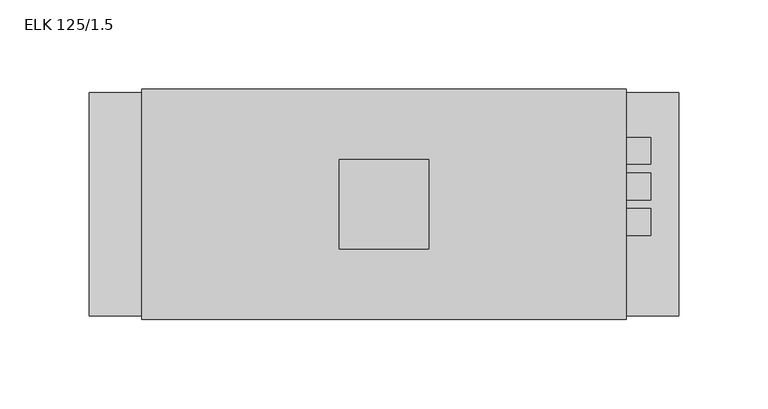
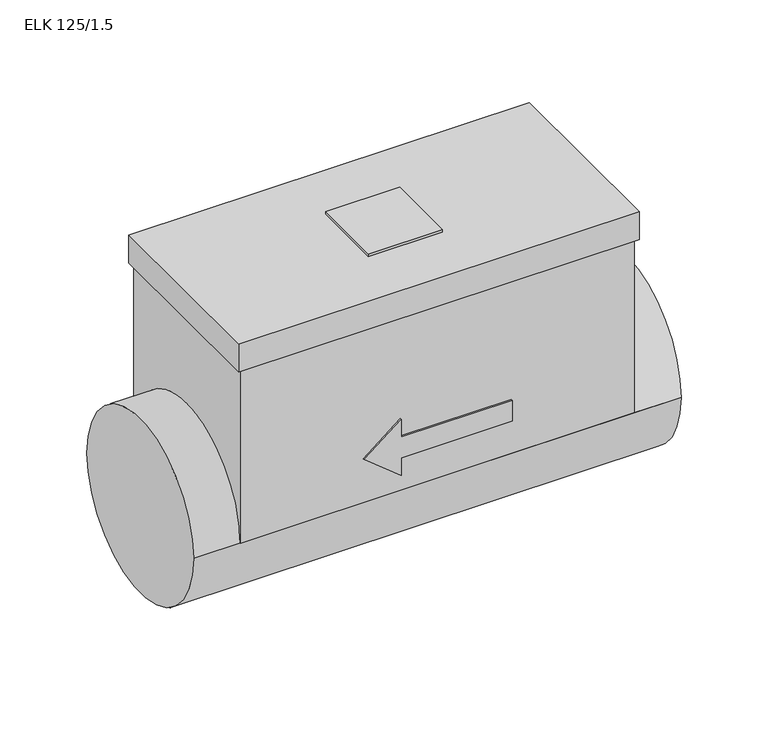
"""IFC4 building model written with IfcOpenShell, lengths in millimetres: proxy geometry, KORF_Нагреватель_Электрический_Круглый_ELK : ELK 125/1.5."""

import ifcopenshell
import ifcopenshell.guid

model = None  # the IFC model being written
_history = None  # IfcOwnerHistory: only IFC2X3 demands one
_inside = {}  # id of a spatial element -> (the spatial element, [elements in it])
_under = {}  # id of a project, library or spatial element -> (it, [spatial elements below it])
_declared = {}  # id of a project -> (the project, [libraries it declares])
_typed = {}  # id of a type object -> (the type object, [elements of that type])
_made_of = {}  # id of a material, layer set ... -> (it, [elements and type objects made of it])


def new_model(schema):
    """Start an empty IFC model of exactly this schema.

    Asked for "IFC4X3", IfcOpenShell would pick the latest addendum, in which some entities
    have other attributes; the version numbers below select the first issue.
    IFC2X3 requires an IfcOwnerHistory on every rooted entity: one is made here for all.
    """
    global model, _history
    if schema == "IFC4X3":
        model = ifcopenshell.file(schema_version=(4, 3, 0, 0))
    else:
        model = ifcopenshell.file(schema=schema)
    _inside.clear()
    _under.clear()
    _declared.clear()
    _typed.clear()
    _made_of.clear()
    _history = None
    if model.schema == "IFC2X3":
        org = make("IfcOrganization", Name="unknown")
        user = make(
            "IfcPersonAndOrganization",
            ThePerson=make("IfcPerson", FamilyName="unknown"),
            TheOrganization=org,
        )
        app = make(
            "IfcApplication",
            ApplicationDeveloper=org,
            Version="unknown",
            ApplicationFullName="unknown",
            ApplicationIdentifier="unknown",
        )
        _history = make(
            "IfcOwnerHistory",
            OwningUser=user,
            OwningApplication=app,
            ChangeAction="ADDED",
            CreationDate=0,
        )
    return model


def make(cls, **values):
    """One entity of the class cls with the attributes given. An attribute that is None is left unset."""
    return model.create_entity(
        cls, **{name: value for name, value in values.items() if value is not None}
    )


def rooted(cls, **values):
    """An entity with a GlobalId (a new one), such as an element, a storey or a relation."""
    return make(cls, GlobalId=ifcopenshell.guid.new(), OwnerHistory=_history, **values)


def si_unit(unit_type, name, prefix=None):
    """IfcSIUnit, for example si_unit("LENGTHUNIT", "METRE", prefix="MILLI")."""
    return make("IfcSIUnit", UnitType=unit_type, Prefix=prefix, Name=name)


def assignment(units):
    """IfcUnitAssignment: the units of a project."""
    return None if units is None else make("IfcUnitAssignment", Units=units)


def point(xyz):
    """IfcCartesianPoint."""
    return None if xyz is None else make("IfcCartesianPoint", Coordinates=xyz)


def direction(xyz):
    """IfcDirection."""
    return None if xyz is None else make("IfcDirection", DirectionRatios=xyz)


def frame(location, z_axis=None, x_axis=None):
    """IfcAxis2Placement3D, a coordinate frame: its origin and axes. An axis left out is left unset."""
    return make(
        "IfcAxis2Placement3D",
        Location=point(location),
        Axis=direction(z_axis),
        RefDirection=direction(x_axis),
    )


def frame_2d(location, x_axis=None):
    """IfcAxis2Placement2D, a coordinate frame in the plane: its origin and x axis."""
    return make(
        "IfcAxis2Placement2D", Location=point(location), RefDirection=direction(x_axis)
    )


def origin():
    """The frame at (0, 0, 0) with its axes left unset."""
    return frame((0.0, 0.0, 0.0))


def place(relative_to, where):
    """IfcLocalPlacement: puts the frame where relative to a parent placement (None: the world)."""
    return make(
        "IfcLocalPlacement", PlacementRelTo=relative_to, RelativePlacement=where
    )


def context(
    kind, dimensions, precision=None, world=None, true_north=None, identifier=None
):
    """IfcGeometricRepresentationContext, for example the 3D "Model" context."""
    return make(
        "IfcGeometricRepresentationContext",
        ContextIdentifier=identifier,
        ContextType=kind,
        CoordinateSpaceDimension=dimensions,
        Precision=precision,
        WorldCoordinateSystem=world,
        TrueNorth=true_north,
    )


def project(units=None, contexts=None):
    """IfcProject with its units and contexts."""
    return rooted(
        "IfcProject",
        Name="project",
        RepresentationContexts=contexts,
        UnitsInContext=assignment(units),
    )


def spatial(cls, under=None, at=None, **own):
    """A site, building, storey or space (cls), placed at a placement, below another one or the project."""
    s = rooted(cls, ObjectPlacement=at, **own)
    if under is not None:
        _under.setdefault(under.id(), (under, []))[1].append(s)
    return s


def polyline(points):
    """IfcPolyline through the points."""
    return make("IfcPolyline", Points=[point(p) for p in points])


def circle_curve(where, radius):
    """IfcCircle in the frame where."""
    return make("IfcCircle", Position=where, Radius=radius)


def trimmed(basis, trim1, trim2, sense, master):
    """IfcTrimmedCurve: the piece of a basis curve between two trims."""
    return make(
        "IfcTrimmedCurve",
        BasisCurve=basis,
        Trim1=trim1,
        Trim2=trim2,
        SenseAgreement=sense,
        MasterRepresentation=master,
    )


def segment(curve, same_sense, transition):
    """IfcCompositeCurveSegment."""
    return make(
        "IfcCompositeCurveSegment",
        Transition=transition,
        SameSense=same_sense,
        ParentCurve=curve,
    )


def composite_curve(segments, self_intersect=None):
    """IfcCompositeCurve: segments joined end to end."""
    return make("IfcCompositeCurve", Segments=segments, SelfIntersect=self_intersect)


def outline(outer, holes=None, kind="AREA"):
    """IfcArbitraryClosedProfileDef: a profile drawn as a closed curve; with holes, ...WithVoids."""
    if holes is None:
        return make("IfcArbitraryClosedProfileDef", ProfileType=kind, OuterCurve=outer)
    return make(
        "IfcArbitraryProfileDefWithVoids",
        ProfileType=kind,
        OuterCurve=outer,
        InnerCurves=holes,
    )


def extrude(swept, where, along, depth):
    """IfcExtrudedAreaSolid: the profile swept, set in the frame where, extruded along a direction by depth."""
    return make(
        "IfcExtrudedAreaSolid",
        SweptArea=swept,
        Position=where,
        ExtrudedDirection=direction(along),
        Depth=depth,
    )


def shape(context_of_items, identifier, shape_type, items):
    """IfcShapeRepresentation: the items that make up one representation, for example the "Body"."""
    return make(
        "IfcShapeRepresentation",
        ContextOfItems=context_of_items,
        RepresentationIdentifier=identifier,
        RepresentationType=shape_type,
        Items=items,
    )


def source(mapping_origin, context_of_items, identifier, shape_type, items):
    """IfcRepresentationMap: a shape defined once, which mapped items show again and again."""
    return make(
        "IfcRepresentationMap",
        MappingOrigin=mapping_origin,
        MappedRepresentation=shape(context_of_items, identifier, shape_type, items),
    )


def transform(
    local_origin,
    x_axis=None,
    y_axis=None,
    z_axis=None,
    scale=None,
    scale2=None,
    scale3=None,
    uniform=True,
):
    """IfcCartesianTransformationOperator3D, or its non-uniform kind. x_axis, y_axis, z_axis: its Axis1, 2, 3."""
    if uniform:
        return make(
            "IfcCartesianTransformationOperator3D",
            Axis1=direction(x_axis),
            Axis2=direction(y_axis),
            LocalOrigin=point(local_origin),
            Scale=scale,
            Axis3=direction(z_axis),
        )
    return make(
        "IfcCartesianTransformationOperator3DnonUniform",
        Axis1=direction(x_axis),
        Axis2=direction(y_axis),
        LocalOrigin=point(local_origin),
        Scale=scale,
        Axis3=direction(z_axis),
        Scale2=scale2,
        Scale3=scale3,
    )


def mapped(mapping_source, mapping_target):
    """IfcMappedItem: shows the shape of a source again, moved by a transform."""
    return make(
        "IfcMappedItem", MappingSource=mapping_source, MappingTarget=mapping_target
    )


def made_of(thing, what):
    """Note that an element or type object is made of a material, layer set ...; save() writes the relation."""
    if what is not None:
        _made_of.setdefault(what.id(), (what, []))[1].append(thing)
    return thing


def element(
    cls,
    number,
    at=None,
    inside=None,
    cuts=None,
    type_object=None,
    material=None,
    context=None,
    identifier="Body",
    shape_type=None,
    held_by="IfcProductDefinitionShape",
    body=None,
    shapes=None,
    **own,
):
    """One element of the class cls, such as IfcWall. Its Tag is "e" and its number.

    at: its placement. inside: the storey or other place that contains it. cuts: it is an
    opening in that element (IfcRelVoidsElement). A single representation is given by context,
    identifier, shape_type and body (its items); several are given by shapes. held_by: the class
    of the entity that holds the representations. save() writes the other relations.
    """
    e = rooted(cls, Tag="e%d" % number, ObjectPlacement=at, **own)
    if body is not None:
        shapes = [shape(context, identifier, shape_type, body)]
    if shapes is not None:
        e.Representation = make(held_by, Representations=shapes)
    if inside is not None:
        _inside.setdefault(inside.id(), (inside, []))[1].append(e)
    if cuts is not None:
        rooted(
            "IfcRelVoidsElement", RelatingBuildingElement=cuts, RelatedOpeningElement=e
        )
    if type_object is not None:
        _typed.setdefault(type_object.id(), (type_object, []))[1].append(e)
    return made_of(e, material)


def aggregate(whole, parts):
    """IfcRelAggregates: a whole, such as a stair, and the parts it consists of."""
    return rooted("IfcRelAggregates", RelatingObject=whole, RelatedObjects=parts)


def save(model, path):
    """Write the relations noted so far, then the file.

    IfcRelAggregates (storeys below a building ...), IfcRelContainedInSpatialStructure (elements
    in a storey), IfcRelDefinesByType, IfcRelAssociatesMaterial and IfcRelDeclares: one each for
    every whole, place, type object, material and project.
    """
    for whole, parts in _under.values():
        aggregate(whole, parts)
    for where, things in _inside.values():
        rooted(
            "IfcRelContainedInSpatialStructure",
            RelatedElements=things,
            RelatingStructure=where,
        )
    for kind, things in _typed.values():
        rooted("IfcRelDefinesByType", RelatedObjects=things, RelatingType=kind)
    for what, things in _made_of.values():
        rooted("IfcRelAssociatesMaterial", RelatedObjects=things, RelatingMaterial=what)
    for by, libraries in _declared.values():
        rooted("IfcRelDeclares", RelatingContext=by, RelatedDefinitions=libraries)
    model.write(path)


def plane_surface(at):
    """IfcPlane: the flat surface through the origin of the frame at, square to its z axis."""
    return make("IfcPlane", Position=at)


def cylinder_surface(at, radius):
    """IfcCylindricalSurface: all points at the distance radius from the z axis of the frame at."""
    return make("IfcCylindricalSurface", Position=at, Radius=radius)


def advanced_brep(points, edges, surfaces, faces):
    """IfcAdvancedBrep: a solid bounded by faces that lie on surfaces and meet in shared edges.

    An edge is (start, end): straight between two places in points (the first is 0);
    or (start, end, curve); or (start, end, curve, False) where it runs against its curve.
    A face is (place in surfaces, loops), or (place, loops, False) where it looks against
    its surface's normal. A loop lists edges by number (the first is 1), with a minus sign
    where the edge is run from its end to its start. The first loop is the outer one.
    """
    corners = [point(p) for p in points]
    vertices = [make("IfcVertexPoint", VertexGeometry=c) for c in corners]
    made = []
    for start, end, *more in edges:
        made.append(
            make(
                "IfcEdgeCurve",
                EdgeStart=vertices[start],
                EdgeEnd=vertices[end],
                EdgeGeometry=more[0] if more else make("IfcPolyline", Points=[corners[start], corners[end]]),
                SameSense=more[1] if len(more) > 1 else True,
            )
        )
    hull = []
    for where, loops, *sense in faces:
        bounds = []
        for j, loop in enumerate(loops):
            ring = [make("IfcOrientedEdge", EdgeElement=made[abs(k) - 1], Orientation=k > 0) for k in loop]
            bounds.append(
                make(
                    "IfcFaceOuterBound" if j == 0 else "IfcFaceBound",
                    Bound=make("IfcEdgeLoop", EdgeList=ring),
                    Orientation=True,
                )
            )
        hull.append(make("IfcAdvancedFace", Bounds=bounds, FaceSurface=surfaces[where], SameSense=sense[0] if sense else True))
    return make("IfcAdvancedBrep", Outer=make("IfcClosedShell", CfsFaces=hull))


def elk_125_1_5_565e7bed(model_context):
    return source(origin(), model_context, "Body", "SolidModel", [
        extrude(outline(polyline([(190.0, 25.0), (190.0, -25.0), (140.0, -25.0), (140.0, 25.0), (190.0, 25.0)])), frame((0.0, 0.0, 144.5), z_axis=(0.0, 0.0, 1.0), x_axis=(1.0, 0.0, 0.0)), (0.0, 0.0, 1.0), 2.0),
        extrude(outline(composite_curve([segment(trimmed(circle_curve(frame_2d((-10.0, 104.5)), 7.5), [point((-17.5, 104.5))], [point((-2.5, 104.5))], False, "CARTESIAN"), True, "CONTINUOUS"), segment(trimmed(circle_curve(frame_2d((-10.0, 104.5)), 7.5), [point((-2.5, 104.5))], [point((-17.5, 104.5))], False, "CARTESIAN"), True, "CONTINUOUS")], self_intersect=False)), frame((298.5, 0.0, 0.0), z_axis=(1.0, 0.0, 0.0), x_axis=(0.0, 1.0, 0.0)), (0.0, 0.0, 1.0), 15.75),
        extrude(outline(composite_curve([segment(trimmed(circle_curve(frame_2d((10.0, 104.5)), 7.5), [point((2.5, 104.5))], [point((17.5, 104.5))], False, "CARTESIAN"), True, "CONTINUOUS"), segment(trimmed(circle_curve(frame_2d((10.0, 104.5)), 7.5), [point((17.5, 104.5))], [point((2.5, 104.5))], False, "CARTESIAN"), True, "CONTINUOUS")], self_intersect=False)), frame((298.5, 0.0, 0.0), z_axis=(1.0, 0.0, 0.0), x_axis=(0.0, 1.0, 0.0)), (0.0, 0.0, 1.0), 15.75),
        extrude(outline(composite_curve([segment(trimmed(circle_curve(frame_2d((30.0, 104.5)), 7.5), [point((22.5, 104.5))], [point((37.5, 104.5))], False, "CARTESIAN"), True, "CONTINUOUS"), segment(trimmed(circle_curve(frame_2d((30.0, 104.5)), 7.5), [point((37.5, 104.5))], [point((22.5, 104.5))], False, "CARTESIAN"), True, "CONTINUOUS")], self_intersect=False)), frame((298.5, 0.0, 0.0), z_axis=(1.0, 0.0, 0.0), x_axis=(0.0, 1.0, 0.0)), (0.0, 0.0, 1.0), 15.75),
        advanced_brep(
        [(300.5, 64.5, 124.5), (300.5, -64.5, 124.5), (29.5, -64.5, 124.5), (29.5, 64.5, 124.5), (298.5, 62.5, 124.5), (31.5, 62.5, 124.5), (31.5, -62.5, 124.5), (298.5, -62.5, 124.5), (300.5, 64.5, 144.5), (29.5, 64.5, 144.5), (29.5, -64.5, 144.5), (300.5, -64.5, 144.5), (298.5, 62.5, 0.0), (31.5, 62.5, 0.0), (140.0, 62.5, 51.25), (115.0, 62.5, 31.25), (140.0, 62.5, 11.25), (140.0, 62.5, 23.75), (215.0, 62.5, 23.75), (215.0, 62.5, 38.75), (140.0, 62.5, 38.75), (31.5, -62.5, 0.0), (298.5, -62.5, 0.0), (115.0, -62.5, 31.25), (140.0, -62.5, 51.25), (140.0, -62.5, 38.75), (215.0, -62.5, 38.75), (215.0, -62.5, 23.75), (140.0, -62.5, 23.75), (140.0, -62.5, 11.25), (330.0, -62.5, 0.0), (330.0, 62.5, 0.0), (0.0, -62.5, 0.0), (0.0, 62.5, 0.0), (140.0, -63.5, 51.25), (115.0, -63.5, 31.25), (140.0, -63.5, 11.25), (140.0, -63.5, 23.75), (215.0, -63.5, 23.75), (215.0, -63.5, 38.75), (140.0, -63.5, 38.75), (140.0, 63.5, 51.25), (140.0, 63.5, 38.75), (215.0, 63.5, 38.75), (215.0, 63.5, 23.75), (140.0, 63.5, 23.75), (140.0, 63.5, 11.25), (115.0, 63.5, 31.25)],
        [
            (0, 1),
            (1, 2),
            (2, 3),
            (3, 0),
            (4, 5),
            (5, 6),
            (6, 7),
            (7, 4),
            (8, 9),
            (9, 10),
            (10, 11),
            (11, 8),
            (3, 9),
            (8, 0),
            (2, 10),
            (1, 11),
            (4, 12),
            (12, 13),
            (13, 5),
            (14, 15),
            (15, 16),
            (16, 17),
            (17, 18),
            (18, 19),
            (19, 20),
            (20, 14),
            (13, 21, circle_curve(frame((31.5, 0.0, 0.0), z_axis=(1.0, 0.0, 0.0), x_axis=(0.0, 1.0, 0.0)), 62.5)),
            (21, 6),
            (21, 22),
            (22, 7),
            (23, 24),
            (24, 25),
            (25, 26),
            (26, 27),
            (27, 28),
            (28, 29),
            (29, 23),
            (22, 12, circle_curve(frame((298.5, 0.0, 0.0), z_axis=(-1.0, 0.0, 0.0), x_axis=(0.0, 1.0, 0.0)), 62.5)),
            (30, 31, circle_curve(frame((330.0, 0.0, 0.0), z_axis=(1.0, 0.0, 0.0), x_axis=(0.0, 1.0, 0.0)), 62.5)),
            (31, 30, circle_curve(frame((330.0, 0.0, 0.0), z_axis=(1.0, 0.0, 0.0), x_axis=(0.0, 1.0, 0.0)), 62.5)),
            (32, 33, circle_curve(frame((0.0, 0.0, 0.0), z_axis=(-1.0, 0.0, 0.0), x_axis=(0.0, 1.0, 0.0)), 62.5)),
            (33, 32, circle_curve(frame((0.0, 0.0, 0.0), z_axis=(-1.0, 0.0, 0.0), x_axis=(0.0, 1.0, 0.0)), 62.5)),
            (30, 22),
            (21, 32),
            (33, 13),
            (12, 31),
            (34, 35),
            (35, 36),
            (36, 37),
            (37, 38),
            (38, 39),
            (39, 40),
            (40, 34),
            (41, 42),
            (42, 43),
            (43, 44),
            (44, 45),
            (45, 46),
            (46, 47),
            (47, 41),
            (34, 24),
            (23, 35),
            (47, 15),
            (14, 41),
            (29, 36),
            (46, 16),
            (28, 37),
            (45, 17),
            (27, 38),
            (44, 18),
            (26, 39),
            (43, 19),
            (25, 40),
            (42, 20),
        ],
        [
            plane_surface(frame((29.5, 64.5, 124.5), z_axis=(0.0, 0.0, -1.0), x_axis=(1.0, 0.0, 0.0))),
            plane_surface(frame((29.5, 64.5, 144.5), z_axis=(0.0, 0.0, 1.0), x_axis=(-1.0, 0.0, 0.0))),
            plane_surface(frame((300.5, 64.5, 144.5), z_axis=(0.0, 1.0, 0.0), x_axis=(0.0, 0.0, -1.0))),
            plane_surface(frame((29.5, 64.5, 144.5), z_axis=(-1.0, 0.0, 0.0), x_axis=(0.0, 0.0, -1.0))),
            plane_surface(frame((29.5, -64.5, 144.5), z_axis=(0.0, -1.0, 0.0), x_axis=(0.0, 0.0, -1.0))),
            plane_surface(frame((300.5, -64.5, 144.5), z_axis=(1.0, 0.0, 0.0), x_axis=(0.0, 0.0, -1.0))),
            plane_surface(frame((298.5, 62.5, 144.5), z_axis=(0.0, 1.0, 0.0), x_axis=(0.0, 0.0, -1.0))),
            plane_surface(frame((31.5, 62.5, 144.5), z_axis=(-1.0, 0.0, 0.0), x_axis=(0.0, 0.0, -1.0))),
            plane_surface(frame((31.5, -62.5, 144.5), z_axis=(0.0, -1.0, 0.0), x_axis=(0.0, 0.0, -1.0))),
            plane_surface(frame((298.5, -62.5, 144.5), z_axis=(1.0, 0.0, 0.0), x_axis=(0.0, 0.0, -1.0))),
            plane_surface(frame((330.0, 62.5, 0.0), z_axis=(1.0, 0.0, 0.0), x_axis=(0.0, 0.0, 1.0))),
            plane_surface(frame((0.0, 62.5, 0.0), z_axis=(-1.0, 0.0, 0.0), x_axis=(0.0, 0.0, -1.0))),
            cylinder_surface(frame((0.0, 0.0, 0.0), z_axis=(1.0, 0.0, 0.0), x_axis=(0.0, 1.0, 0.0)), 62.5),
            plane_surface(frame((115.0, -63.5, 31.25), z_axis=(0.0, -1.0, 0.0), x_axis=(-0.7808688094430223, 0.0, -0.6246950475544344))),
            plane_surface(frame((115.0, 63.5, 31.25), z_axis=(0.0, 1.0, 0.0), x_axis=(0.7808688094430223, 0.0, 0.6246950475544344))),
            plane_surface(frame((140.0, -63.5, 51.25), z_axis=(-0.6246950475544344, 0.0, 0.7808688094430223), x_axis=(0.0, 1.0, 0.0))),
            plane_surface(frame((115.0, -63.5, 31.25), z_axis=(-0.6246950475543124, 0.0, -0.7808688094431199), x_axis=(0.0, 1.0, 0.0))),
            plane_surface(frame((140.0, -63.5, 11.25), z_axis=(1.0, 0.0, 0.0), x_axis=(0.0, 1.0, 0.0))),
            plane_surface(frame((140.0, -63.5, 23.75), z_axis=(0.0, 0.0, -1.0), x_axis=(0.0, 1.0, 0.0))),
            plane_surface(frame((215.0, -63.5, 23.75), z_axis=(1.0, 0.0, 0.0), x_axis=(0.0, 1.0, 0.0))),
            plane_surface(frame((215.0, -63.5, 38.75), z_axis=(0.0, 0.0, 1.0), x_axis=(0.0, 1.0, 0.0))),
            plane_surface(frame((140.0, -63.5, 38.75), z_axis=(1.0, 0.0, 0.0), x_axis=(0.0, 1.0, 0.0))),
        ],
        [
            (0, [[1, 2, 3, 4], [5, 6, 7, 8]]),
            (1, [[9, 10, 11, 12]]),
            (2, [[-4, 13, -9, 14]]),
            (3, [[-3, 15, -10, -13]]),
            (4, [[-2, 16, -11, -15]]),
            (5, [[-1, -14, -12, -16]]),
            (6, [[17, 18, 19, -5], [20, 21, 22, 23, 24, 25, 26]]),
            (7, [[-19, 27, 28, -6]]),
            (8, [[-28, 29, 30, -7], [31, 32, 33, 34, 35, 36, 37]]),
            (9, [[-17, -8, -30, 38]]),
            (10, [[39, 40]]),
            (11, [[41, 42]]),
            (12, [[-39, 43, -29, 44, -42, 45, -18, 46]]),
            (12, [[-40, -46, -38, -43]]),
            (12, [[-41, -44, -27, -45]]),
            (13, [[47, 48, 49, 50, 51, 52, 53]]),
            (14, [[54, 55, 56, 57, 58, 59, 60]]),
            (15, [[-47, 61, -31, 62]]),
            (15, [[-60, 63, -20, 64]]),
            (16, [[-48, -62, -37, 65]]),
            (16, [[-59, 66, -21, -63]]),
            (17, [[-49, -65, -36, 67]]),
            (17, [[-58, 68, -22, -66]]),
            (18, [[-50, -67, -35, 69]]),
            (18, [[-57, 70, -23, -68]]),
            (19, [[-51, -69, -34, 71]]),
            (19, [[-56, 72, -24, -70]]),
            (20, [[-52, -71, -33, 73]]),
            (20, [[-55, 74, -25, -72]]),
            (21, [[-53, -73, -32, -61]]),
            (21, [[-54, -64, -26, -74]]),
        ],
    ),
    ])


if __name__ == "__main__":
    model = new_model("IFC4")
    model_context = context("Model", 3, world=origin())
    ifc_project = project(units=[si_unit("LENGTHUNIT", "METRE", prefix="MILLI")], contexts=[model_context])
    site = spatial("IfcSite", under=ifc_project)
    building = spatial("IfcBuilding", under=site)
    placement = place(None, origin())
    elk_125_1_5_shape = elk_125_1_5_565e7bed(model_context)
    element("IfcBuildingElementProxy", 1, Name="KORF_Нагреватель_Электрический_Круглый_ELK : ELK 125/1.5", ObjectType="KORF_Нагреватель_Электрический_Круглый_ELK : ELK 125/1.5", at=placement, inside=building, context=model_context, shape_type="MappedRepresentation", body=[
        mapped(elk_125_1_5_shape, transform((0.0, 0.0, 0.0), x_axis=(1.0, 0.0, 0.0), y_axis=(0.0, 1.0, 0.0), z_axis=(0.0, 0.0, 1.0))),
    ])
    save(model, "model.ifc")
